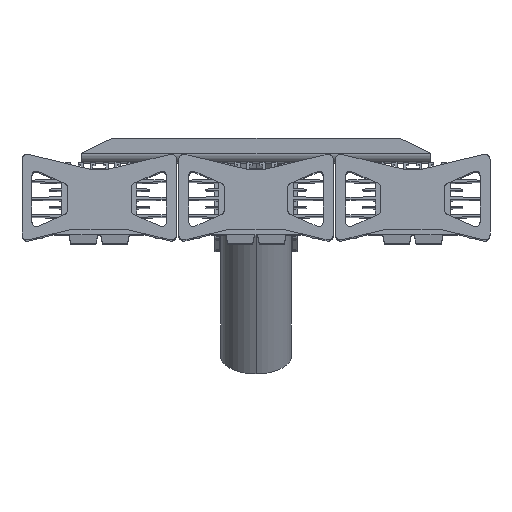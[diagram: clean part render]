
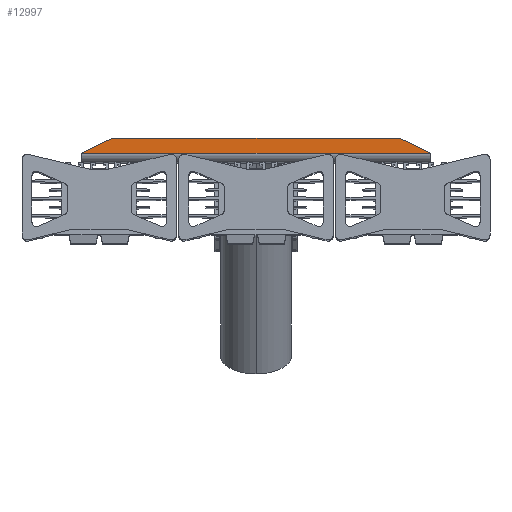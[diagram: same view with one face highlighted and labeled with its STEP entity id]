
A CAD part, top view. The second image highlights one B-rep face of the part: STEP entity #12997.
In plain terms, the highlighted planar face has unit normal (0, 0, 1).
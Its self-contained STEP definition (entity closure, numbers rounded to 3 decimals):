
#2 = VECTOR ( 'NONE', #10319, 1000. ) ;
#97 = LINE ( 'NONE', #5185, #2318 ) ;
#176 = VERTEX_POINT ( 'NONE', #7178 ) ;
#719 = CARTESIAN_POINT ( 'NONE',  ( 0., 79., 178. ) ) ;
#807 = EDGE_CURVE ( 'NONE', #4534, #176, #97, .T. ) ;
#2277 = CARTESIAN_POINT ( 'NONE',  ( -115., 91., 178. ) ) ;
#2318 = VECTOR ( 'NONE', #15397, 1000. ) ;
#2900 = VECTOR ( 'NONE', #2902, 1000. ) ;
#2902 = DIRECTION ( 'NONE',  ( 1., 0., 0. ) ) ;
#3000 = ORIENTED_EDGE ( 'NONE', *, *, #7798, .F. ) ;
#3233 = LINE ( 'NONE', #719, #2900 ) ;
#3368 = FACE_OUTER_BOUND ( 'NONE', #5891, .T. ) ;
#3783 = EDGE_CURVE ( 'NONE', #14196, #4534, #16509, .T. ) ;
#3862 = CARTESIAN_POINT ( 'NONE',  ( -140., 79., 178. ) ) ;
#4534 = VERTEX_POINT ( 'NONE', #5972 ) ;
#5185 = CARTESIAN_POINT ( 'NONE',  ( 115., 91., 178. ) ) ;
#5210 = CARTESIAN_POINT ( 'NONE',  ( 140., 91., 178. ) ) ;
#5891 = EDGE_LOOP ( 'NONE', ( #13696, #7182, #3000, #13255 ) ) ;
#5972 = CARTESIAN_POINT ( 'NONE',  ( 115., 91., 178. ) ) ;
#7178 = CARTESIAN_POINT ( 'NONE',  ( 140., 79., 178. ) ) ;
#7182 = ORIENTED_EDGE ( 'NONE', *, *, #3783, .F. ) ;
#7373 = DIRECTION ( 'NONE',  ( 0., 0., 1. ) ) ;
#7798 = EDGE_CURVE ( 'NONE', #13183, #14196, #9665, .T. ) ;
#8472 = CARTESIAN_POINT ( 'NONE',  ( 0., 0., 178. ) ) ;
#8740 = AXIS2_PLACEMENT_3D ( 'NONE', #8472, #7373, #15003 ) ;
#9665 = LINE ( 'NONE', #2277, #14070 ) ;
#10319 = DIRECTION ( 'NONE',  ( 1., 0., 0. ) ) ;
#12997 = ADVANCED_FACE ( 'NONE', ( #3368 ), #13659, .T. ) ;
#13183 = VERTEX_POINT ( 'NONE', #3862 ) ;
#13255 = ORIENTED_EDGE ( 'NONE', *, *, #13395, .T. ) ;
#13395 = EDGE_CURVE ( 'NONE', #13183, #176, #3233, .T. ) ;
#13659 = PLANE ( 'NONE',  #8740 ) ;
#13696 = ORIENTED_EDGE ( 'NONE', *, *, #807, .F. ) ;
#14050 = CARTESIAN_POINT ( 'NONE',  ( -115., 91., 178. ) ) ;
#14070 = VECTOR ( 'NONE', #15870, 1000. ) ;
#14196 = VERTEX_POINT ( 'NONE', #14050 ) ;
#15003 = DIRECTION ( 'NONE',  ( 0., -1., 0. ) ) ;
#15397 = DIRECTION ( 'NONE',  ( 0.902, -0.433, 0. ) ) ;
#15870 = DIRECTION ( 'NONE',  ( 0.902, 0.433, 0. ) ) ;
#16509 = LINE ( 'NONE', #5210, #2 ) ;
